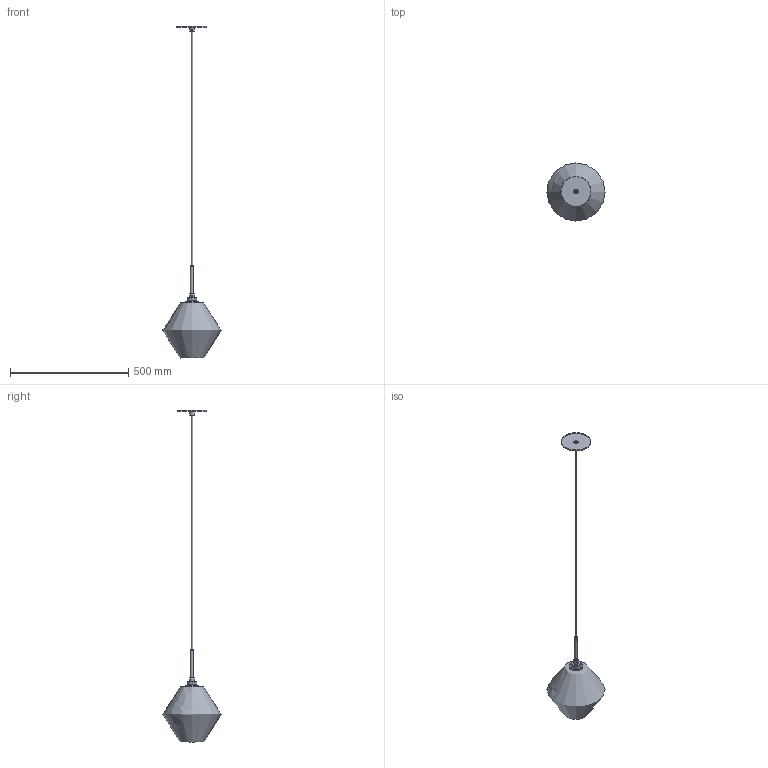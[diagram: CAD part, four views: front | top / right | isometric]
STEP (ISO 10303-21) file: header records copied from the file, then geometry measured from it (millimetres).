
FILE_DESCRIPTION(/* description */ (''),/* implementation_level */ '2;1');
FILE_NAME(/* name */ 'C:/Users/zach/Niche/Product Development - Documents/CAD Models/Pendants/Trove/CAD Models/Glass - Luxe Hardware/Niche - Trove Pendant.step',/* time_stamp */ '2022-08-09T15:46:58-04:00',/* author */ (''),/* organization */ (''),/* preprocessor_version */ 'ST-DEVELOPER v19',/* originating_system */ 'Autodesk Translation Framework v11.7.0.108',/* authorisation */ '');
FILE_SCHEMA (('AUTOMOTIVE_DESIGN { 1 0 10303 214 3 1 1 }'));
Length unit declared in the file: inch
Products named in the file (1): Trove
Bounding box: 246.46 x 246.48 x 1406.43 mm (x, y, z)
Volume: 969185.3 mm3; surface area: 417461.6 mm2
Topology: 12 solids, 12 shells, 230 faces, 597 edges, 396 vertices
Faces by surface type: cylinder 154, plane 59, bspline 13, cone 3, sphere 1
Full cylindrical faces by diameter (mm): 4.355 x4, 4.529 x1, 4.927 x9, 5.08 x1, 6.096 x1, 6.35 x1, 6.5 x1, 7.62 x1, 7.744 x7, 8.036 x15, 8.852 x1, 8.884 x8, 9.035 x1, 9.146 x11, 10.16 x1, 12.7 x2, 19.05 x1, 19.2 x1, 25.4 x1, 26.022 x1, 34.97 x1, 35.052 x9, 37.85 x8, 39 x1, 39.35 x1, 41.035 x1, 41.2 x1, 41.884 x1, 44 x1, 44.45 x1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
Entity records: 17409 total; most frequent: CARTESIAN_POINT 12213, ORIENTED_EDGE 1192, DIRECTION 835, EDGE_CURVE 596, VERTEX_POINT 396, AXIS2_PLACEMENT_3D 309, B_SPLINE_CURVE_WITH_KNOTS 286, EDGE_LOOP 260
